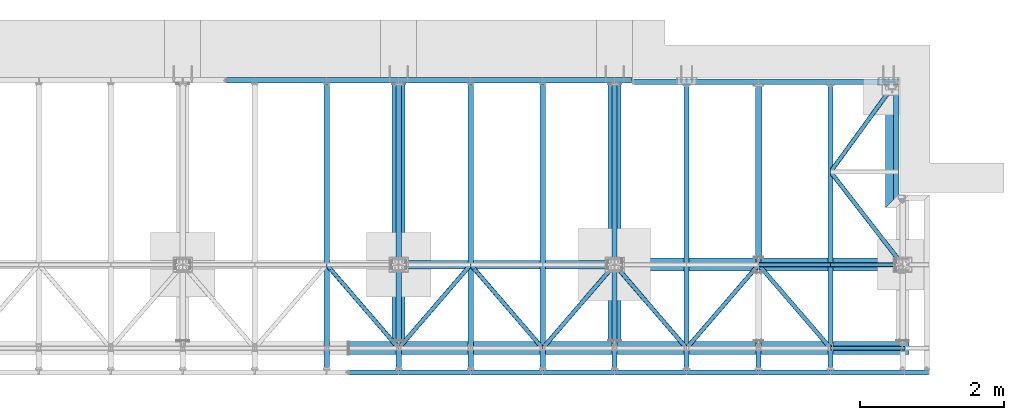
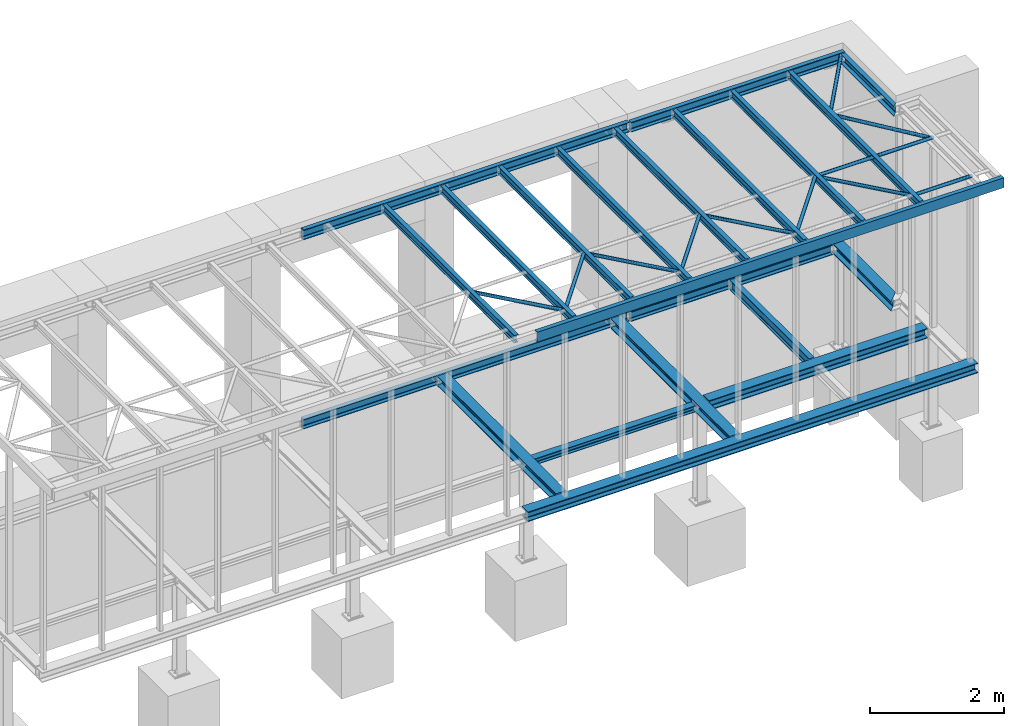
# One storey, part 4 of 23: 33 beams, 33 elements without a shape of their own.
"""IFC2X3 building model written with IfcOpenShell, lengths in millimetres."""

import ifcopenshell
import ifcopenshell.guid

model = None  # the IFC model being written
_history = None  # IfcOwnerHistory: only IFC2X3 demands one
_inside = {}  # id of a spatial element -> (the spatial element, [elements in it])
_under = {}  # id of a project, library or spatial element -> (it, [spatial elements below it])
_declared = {}  # id of a project -> (the project, [libraries it declares])
_typed = {}  # id of a type object -> (the type object, [elements of that type])
_made_of = {}  # id of a material, layer set ... -> (it, [elements and type objects made of it])


def new_model(schema):
    """Start an empty IFC model of exactly this schema.

    Asked for "IFC4X3", IfcOpenShell would pick the latest addendum, in which some entities
    have other attributes; the version numbers below select the first issue.
    IFC2X3 requires an IfcOwnerHistory on every rooted entity: one is made here for all.
    """
    global model, _history
    if schema == "IFC4X3":
        model = ifcopenshell.file(schema_version=(4, 3, 0, 0))
    else:
        model = ifcopenshell.file(schema=schema)
    _inside.clear()
    _under.clear()
    _declared.clear()
    _typed.clear()
    _made_of.clear()
    _history = None
    if model.schema == "IFC2X3":
        org = make("IfcOrganization", Name="unknown")
        user = make(
            "IfcPersonAndOrganization",
            ThePerson=make("IfcPerson", FamilyName="unknown"),
            TheOrganization=org,
        )
        app = make(
            "IfcApplication",
            ApplicationDeveloper=org,
            Version="unknown",
            ApplicationFullName="unknown",
            ApplicationIdentifier="unknown",
        )
        _history = make(
            "IfcOwnerHistory",
            OwningUser=user,
            OwningApplication=app,
            ChangeAction="ADDED",
            CreationDate=0,
        )
    return model


def make(cls, **values):
    """One entity of the class cls with the attributes given. An attribute that is None is left unset."""
    return model.create_entity(
        cls, **{name: value for name, value in values.items() if value is not None}
    )


def rooted(cls, **values):
    """An entity with a GlobalId (a new one), such as an element, a storey or a relation."""
    return make(cls, GlobalId=ifcopenshell.guid.new(), OwnerHistory=_history, **values)


def si_unit(unit_type, name, prefix=None):
    """IfcSIUnit, for example si_unit("LENGTHUNIT", "METRE", prefix="MILLI")."""
    return make("IfcSIUnit", UnitType=unit_type, Prefix=prefix, Name=name)


def assignment(units):
    """IfcUnitAssignment: the units of a project."""
    return None if units is None else make("IfcUnitAssignment", Units=units)


def point(xyz):
    """IfcCartesianPoint."""
    return None if xyz is None else make("IfcCartesianPoint", Coordinates=xyz)


def direction(xyz):
    """IfcDirection."""
    return None if xyz is None else make("IfcDirection", DirectionRatios=xyz)


def frame(location, z_axis=None, x_axis=None):
    """IfcAxis2Placement3D, a coordinate frame: its origin and axes. An axis left out is left unset."""
    return make(
        "IfcAxis2Placement3D",
        Location=point(location),
        Axis=direction(z_axis),
        RefDirection=direction(x_axis),
    )


def frame_2d(location, x_axis=None):
    """IfcAxis2Placement2D, a coordinate frame in the plane: its origin and x axis."""
    return make(
        "IfcAxis2Placement2D", Location=point(location), RefDirection=direction(x_axis)
    )


def origin_with_axes():
    """The frame at (0, 0, 0) with the z axis (0, 0, 1) and the x axis (1, 0, 0) written out."""
    return frame((0.0, 0.0, 0.0), z_axis=(0.0, 0.0, 1.0), x_axis=(1.0, 0.0, 0.0))


def origin_2d_with_axis():
    """The frame at (0, 0) in the plane with the x axis (1, 0) written out."""
    return frame_2d((0.0, 0.0), x_axis=(1.0, 0.0))


def place(relative_to, where):
    """IfcLocalPlacement: puts the frame where relative to a parent placement (None: the world)."""
    return make(
        "IfcLocalPlacement", PlacementRelTo=relative_to, RelativePlacement=where
    )


def context(
    kind, dimensions, precision=None, world=None, true_north=None, identifier=None
):
    """IfcGeometricRepresentationContext, for example the 3D "Model" context."""
    return make(
        "IfcGeometricRepresentationContext",
        ContextIdentifier=identifier,
        ContextType=kind,
        CoordinateSpaceDimension=dimensions,
        Precision=precision,
        WorldCoordinateSystem=world,
        TrueNorth=true_north,
    )


def subcontext(parent, identifier, kind, view, scale=None):
    """IfcGeometricRepresentationSubContext, for example "Body" below "Model"."""
    return make(
        "IfcGeometricRepresentationSubContext",
        ContextIdentifier=identifier,
        ContextType=kind,
        ParentContext=parent,
        TargetScale=scale,
        TargetView=view,
    )


def project(units=None, contexts=None):
    """IfcProject with its units and contexts."""
    return rooted(
        "IfcProject",
        Name="project",
        RepresentationContexts=contexts,
        UnitsInContext=assignment(units),
    )


def spatial(cls, under=None, at=None, **own):
    """A site, building, storey or space (cls), placed at a placement, below another one or the project."""
    s = rooted(cls, ObjectPlacement=at, **own)
    if under is not None:
        _under.setdefault(under.id(), (under, []))[1].append(s)
    return s


def profile(cls, at=None, kind="AREA", **sizes):
    """A parametric profile (cls). Its sizes go by their IFC names, for example OverallWidth=200.0."""
    return make(cls, ProfileType=kind, Position=at, **sizes)


def hollow_circle(**sizes):
    """IfcCircleHollowProfileDef."""
    return profile("IfcCircleHollowProfileDef", **sizes)


def i_section(**sizes):
    """IfcIShapeProfileDef."""
    return profile("IfcIShapeProfileDef", **sizes)


def u_section(**sizes):
    """IfcUShapeProfileDef."""
    return profile("IfcUShapeProfileDef", **sizes)


def extrude(swept, where, along, depth):
    """IfcExtrudedAreaSolid: the profile swept, set in the frame where, extruded along a direction by depth."""
    return make(
        "IfcExtrudedAreaSolid",
        SweptArea=swept,
        Position=where,
        ExtrudedDirection=direction(along),
        Depth=depth,
    )


def boolean(op, a, b):
    """IfcBooleanResult of two solids."""
    return make("IfcBooleanResult", Operator=op, FirstOperand=a, SecondOperand=b)


def clip(a, b, op="DIFFERENCE"):
    """IfcBooleanClippingResult: the solid a cut by the half space b."""
    return make(
        "IfcBooleanClippingResult", Operator=op, FirstOperand=a, SecondOperand=b
    )


def halfspace(plane, agree):
    """IfcHalfSpaceSolid: all space on one side of the plane z = 0 of the frame plane."""
    return make(
        "IfcHalfSpaceSolid",
        BaseSurface=make("IfcPlane", Position=plane),
        AgreementFlag=agree,
    )


def shape(context_of_items, identifier, shape_type, items):
    """IfcShapeRepresentation: the items that make up one representation, for example the "Body"."""
    return make(
        "IfcShapeRepresentation",
        ContextOfItems=context_of_items,
        RepresentationIdentifier=identifier,
        RepresentationType=shape_type,
        Items=items,
    )


def material(Name=None, Category=None):
    """IfcMaterial."""
    return make("IfcMaterial", Name=Name, Category=Category)


def made_of(thing, what):
    """Note that an element or type object is made of a material, layer set ...; save() writes the relation."""
    if what is not None:
        _made_of.setdefault(what.id(), (what, []))[1].append(thing)
    return thing


def type_object(cls, material=None, **own):
    """A type object (cls), such as IfcWallType, which elements share."""
    return made_of(rooted(cls, **own), material)


def element(
    cls,
    number,
    at=None,
    inside=None,
    cuts=None,
    type_object=None,
    material=None,
    context=None,
    identifier="Body",
    shape_type=None,
    held_by="IfcProductDefinitionShape",
    body=None,
    shapes=None,
    **own,
):
    """One element of the class cls, such as IfcWall. Its Tag is "e" and its number.

    at: its placement. inside: the storey or other place that contains it. cuts: it is an
    opening in that element (IfcRelVoidsElement). A single representation is given by context,
    identifier, shape_type and body (its items); several are given by shapes. held_by: the class
    of the entity that holds the representations. save() writes the other relations.
    """
    e = rooted(cls, Tag="e%d" % number, ObjectPlacement=at, **own)
    if body is not None:
        shapes = [shape(context, identifier, shape_type, body)]
    if shapes is not None:
        e.Representation = make(held_by, Representations=shapes)
    if inside is not None:
        _inside.setdefault(inside.id(), (inside, []))[1].append(e)
    if cuts is not None:
        rooted(
            "IfcRelVoidsElement", RelatingBuildingElement=cuts, RelatedOpeningElement=e
        )
    if type_object is not None:
        _typed.setdefault(type_object.id(), (type_object, []))[1].append(e)
    return made_of(e, material)


def aggregate(whole, parts):
    """IfcRelAggregates: a whole, such as a stair, and the parts it consists of."""
    return rooted("IfcRelAggregates", RelatingObject=whole, RelatedObjects=parts)


def save(model, path):
    """Write the relations noted so far, then the file.

    IfcRelAggregates (storeys below a building ...), IfcRelContainedInSpatialStructure (elements
    in a storey), IfcRelDefinesByType, IfcRelAssociatesMaterial and IfcRelDeclares: one each for
    every whole, place, type object, material and project.
    """
    for whole, parts in _under.values():
        aggregate(whole, parts)
    for where, things in _inside.values():
        rooted(
            "IfcRelContainedInSpatialStructure",
            RelatedElements=things,
            RelatingStructure=where,
        )
    for kind, things in _typed.values():
        rooted("IfcRelDefinesByType", RelatedObjects=things, RelatingType=kind)
    for what, things in _made_of.values():
        rooted("IfcRelAssociatesMaterial", RelatedObjects=things, RelatingMaterial=what)
    for by, libraries in _declared.values():
        rooted("IfcRelDeclares", RelatingContext=by, RelatedDefinitions=libraries)
    model.write(path)


model = new_model("IFC2X3")

# Units and contexts
model_context = context("Model", 3, precision=1e-05, world=origin_with_axes())
body_context = subcontext(model_context, "Body", "Model", "MODEL_VIEW")
ifc_project = project(units=[si_unit("LENGTHUNIT", "METRE", prefix="MILLI"), si_unit("AREAUNIT", "SQUARE_METRE"), si_unit("VOLUMEUNIT", "CUBIC_METRE"), si_unit("MASSUNIT", "GRAM", prefix="KILO"), si_unit("TIMEUNIT", "SECOND"), si_unit("PLANEANGLEUNIT", "RADIAN"), si_unit("SOLIDANGLEUNIT", "STERADIAN"), si_unit("THERMODYNAMICTEMPERATUREUNIT", "DEGREE_CELSIUS"), si_unit("LUMINOUSINTENSITYUNIT", "LUMEN")], contexts=[model_context])

# Site, building, storey
site_placement = place(None, origin_with_axes())
site = spatial("IfcSite", under=ifc_project, at=site_placement, Name="Undefined", CompositionType="ELEMENT")
building_placement = place(site_placement, origin_with_axes())
building = spatial("IfcBuilding", under=site, at=building_placement, Name="Undefined", CompositionType="ELEMENT")
storey_placement = place(building_placement, origin_with_axes())
storey = spatial("IfcBuildingStorey", under=building, at=storey_placement, Name="Undefined", CompositionType="ELEMENT", Elevation=0.0)

# Assembly, beam
assembly_1_placement = place(storey_placement, origin_with_axes())
assembly_1 = element("IfcElementAssembly", 1, at=assembly_1_placement, inside=storey, Name="Steel Assembly", AssemblyPlace="NOTDEFINED", PredefinedType="RIGID_FRAME")
ifc_material = material(Name="STEEL/S235JR")
beam_type_1 = type_object("IfcBeamType", Name="CHS60.3*5", PredefinedType="NOTDEFINED")
beam_1_placement = place(assembly_1_placement, frame((15050.0, 2550.0, 3230.0), z_axis=(0.0, 0.0, 1.0), x_axis=(0.612667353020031, -0.79034088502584, 0.0)))
beam_1 = element("IfcBeam", 2, at=beam_1_placement, type_object=beam_type_1, material=ifc_material, Name="NOSNÍK", ObjectType="CHS60.3*5", context=body_context, shape_type="CSG", body=[
    boolean("DIFFERENCE", boolean("DIFFERENCE", boolean("DIFFERENCE", extrude(hollow_circle(Radius=30.15, WallThickness=5.0, at=origin_2d_with_axis()), frame((1632.20709478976, -2.71817084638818e-13, 0.0), z_axis=(-1.0, 0.0, 0.0), x_axis=(0.0, -1.0, 0.0)), (0.0, 0.0, 1.0), 1632.2), extrude(hollow_circle(Radius=30.15, WallThickness=5.0, at=origin_2d_with_axis()), frame((581.421318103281, 750.033499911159, -1.50976120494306e-10), z_axis=(-0.612667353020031, -0.79034088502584, 0.0), x_axis=(-0.79034088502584, 0.612667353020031, 0.0)), (0.0, 0.0, 1.0), 949.0)), extrude(hollow_circle(Radius=30.15, WallThickness=5.0, at=origin_2d_with_axis()), frame((1653.34411846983, 27.2667601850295, -1.50976120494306e-10), z_axis=(-0.612667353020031, -0.79034088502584, 0.0), x_axis=(-0.79034088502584, 0.612667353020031, 0.0)), (0.0, 0.0, 1.0), 1034.5)), halfspace(frame((-35.0578133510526, 30.1500000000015, -30.1500000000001), z_axis=(-0.612667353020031, -0.79034088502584, 0.0), x_axis=(0.0, 0.0, 1.0)), False)),
])
aggregate(assembly_1, [beam_1])

assembly_2_placement = place(storey_placement, origin_with_axes())
assembly_2 = element("IfcElementAssembly", 3, at=assembly_2_placement, inside=storey, Name="Steel Assembly", AssemblyPlace="NOTDEFINED", PredefinedType="RIGID_FRAME")
beam_2_placement = place(assembly_2_placement, frame((15959.75, 3800.0, 3230.0), z_axis=(0.0, 0.0, -1.0), x_axis=(-0.588450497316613, -0.808533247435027, 0.0)))
beam_2 = element("IfcBeam", 4, at=beam_2_placement, type_object=beam_type_1, material=ifc_material, Name="NOSNÍK", ObjectType="CHS60.3*5", context=body_context, shape_type="CSG", body=[
    boolean("DIFFERENCE", boolean("DIFFERENCE", extrude(hollow_circle(Radius=30.15, WallThickness=5.0, at=origin_2d_with_axis()), frame((1546.00939922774, 0.0, 0.0), z_axis=(-1.0, 0.0, 0.0), x_axis=(0.0, -1.0, 0.0)), (0.0, 0.0, 1.0), 1546.0), extrude(hollow_circle(Radius=30.15, WallThickness=5.0, at=origin_2d_with_axis()), frame((987.569877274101, -767.298051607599, 9.09494701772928e-13), z_axis=(0.588450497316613, 0.808533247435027, 0.0), x_axis=(-0.808533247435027, 0.588450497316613, 0.0)), (0.0, 0.0, 1.0), 949.0)), halfspace(frame((1583.44207669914, -30.1499999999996, -30.1500000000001), z_axis=(0.588450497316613, 0.808533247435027, 0.0), x_axis=(0.0, 0.0, 1.0)), False)),
])
aggregate(assembly_2, [beam_2])

assembly_3_placement = place(storey_placement, origin_with_axes())
assembly_3 = element("IfcElementAssembly", 5, at=assembly_3_placement, inside=storey, Name="Steel Assembly", AssemblyPlace="NOTDEFINED", PredefinedType="RIGID_FRAME")
beam_3_placement = place(assembly_3_placement, frame((14049.999999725, 1260.00000021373, 3230.0), z_axis=(0.0, 0.0, -1.0), x_axis=(0.652939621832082, -0.757409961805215, 0.0)))
beam_3 = element("IfcBeam", 6, at=beam_3_placement, type_object=beam_type_1, material=ifc_material, Name="NOSNÍK", ObjectType="CHS60.3*5", context=body_context, shape_type="CSG", body=[
    boolean("DIFFERENCE", boolean("DIFFERENCE", boolean("DIFFERENCE", boolean("DIFFERENCE", extrude(hollow_circle(Radius=30.15, WallThickness=5.0, at=origin_2d_with_axis()), frame((1531.53517752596, -1.81898940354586e-12, 0.0), z_axis=(-1.0, 0.0, 0.0), x_axis=(0.0, -1.0, 0.0)), (0.0, 0.0, 1.0), 1531.5), extrude(hollow_circle(Radius=30.15, WallThickness=5.0, at=origin_2d_with_axis()), frame((652.939622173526, -757.409961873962, 9.09494701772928e-13), z_axis=(-0.652939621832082, 0.757409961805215, 0.0), x_axis=(-0.757409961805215, -0.652939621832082, 0.0)), (0.0, 0.0, 1.0), 997.6)), extrude(hollow_circle(Radius=30.15, WallThickness=5.0, at=origin_2d_with_axis()), frame((1530.00076975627, 1.77991286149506, 9.09494701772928e-13), z_axis=(-0.652939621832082, 0.757409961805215, 0.0), x_axis=(-0.757409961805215, -0.652939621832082, 0.0)), (0.0, 0.0, 1.0), 995.3)), halfspace(frame((38.5731081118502, 30.1499999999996, -30.1499999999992), z_axis=(-0.652939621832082, 0.757409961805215, 0.0), x_axis=(0.0, 0.0, 1.0)), False)), halfspace(frame((1562.91007051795, 30.1499999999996, 30.150000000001), z_axis=(0.652939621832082, -0.757409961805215, 0.0), x_axis=(0.0, 0.0, -1.0)), False)),
])
aggregate(assembly_3, [beam_3])

assembly_4_placement = place(storey_placement, origin_with_axes())
assembly_4 = element("IfcElementAssembly", 7, at=assembly_4_placement, inside=storey, Name="Steel Assembly", AssemblyPlace="NOTDEFINED", PredefinedType="RIGID_FRAME")
beam_4_placement = place(assembly_4_placement, frame((13050.0, 100.0, 3230.0), z_axis=(0.0, 0.0, -1.0), x_axis=(0.652939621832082, 0.757409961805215, 0.0)))
beam_4 = element("IfcBeam", 8, at=beam_4_placement, type_object=beam_type_1, material=ifc_material, Name="NOSNÍK", ObjectType="CHS60.3*5", context=body_context, shape_type="CSG", body=[
    boolean("DIFFERENCE", boolean("DIFFERENCE", boolean("DIFFERENCE", boolean("DIFFERENCE", extrude(hollow_circle(Radius=30.15, WallThickness=5.0, at=origin_2d_with_axis()), frame((1531.53517752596, -1.81898940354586e-12, 0.0), z_axis=(-1.0, 0.0, 0.0), x_axis=(0.0, -1.0, 0.0)), (0.0, 0.0, 1.0), 1531.5), extrude(hollow_circle(Radius=30.15, WallThickness=5.0, at=origin_2d_with_axis()), frame((1530.00076941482, -1.77991293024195, 0.0), z_axis=(-0.652939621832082, -0.757409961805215, 0.0), x_axis=(0.757409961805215, -0.652939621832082, 0.0)), (0.0, 0.0, 1.0), 997.6)), extrude(hollow_circle(Radius=30.15, WallThickness=5.0, at=origin_2d_with_axis()), frame((651.405213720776, 755.630048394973, 0.0), z_axis=(-0.652939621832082, -0.757409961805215, 0.0), x_axis=(0.757409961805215, -0.652939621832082, 0.0)), (0.0, 0.0, 1.0), 995.3)), halfspace(frame((1562.9100704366, -30.1499999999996, -30.1500000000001), z_axis=(0.652939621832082, 0.757409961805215, 0.0), x_axis=(0.0, 0.0, 1.0)), False)), halfspace(frame((-31.3748924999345, 30.1499999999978, -30.1500000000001), z_axis=(-0.652939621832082, -0.757409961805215, 0.0), x_axis=(0.0, 0.0, 1.0)), False)),
])
aggregate(assembly_4, [beam_4])

assembly_5_placement = place(storey_placement, origin_with_axes())
assembly_5 = element("IfcElementAssembly", 9, at=assembly_5_placement, inside=storey, Name="Steel Assembly", AssemblyPlace="NOTDEFINED", PredefinedType="RIGID_FRAME")
beam_5_placement = place(assembly_5_placement, frame((12049.999999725, 1260.00000021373, 3230.0), z_axis=(0.0, 0.0, -1.0), x_axis=(0.652939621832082, -0.757409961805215, 0.0)))
beam_5 = element("IfcBeam", 10, at=beam_5_placement, type_object=beam_type_1, material=ifc_material, Name="NOSNÍK", ObjectType="CHS60.3*5", context=body_context, shape_type="CSG", body=[
    boolean("DIFFERENCE", boolean("DIFFERENCE", boolean("DIFFERENCE", boolean("DIFFERENCE", extrude(hollow_circle(Radius=30.15, WallThickness=5.0, at=origin_2d_with_axis()), frame((1531.53517752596, -1.81898940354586e-12, 0.0), z_axis=(-1.0, 0.0, 0.0), x_axis=(0.0, -1.0, 0.0)), (0.0, 0.0, 1.0), 1531.5), extrude(hollow_circle(Radius=30.15, WallThickness=5.0, at=origin_2d_with_axis()), frame((651.405214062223, -755.630048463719, 0.0), z_axis=(-0.652939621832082, 0.757409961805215, 0.0), x_axis=(-0.757409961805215, -0.652939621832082, 0.0)), (0.0, 0.0, 1.0), 995.3)), extrude(hollow_circle(Radius=30.15, WallThickness=5.0, at=origin_2d_with_axis()), frame((1530.00076975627, 1.77991286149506, 9.09494701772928e-13), z_axis=(-0.652939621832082, 0.757409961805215, 0.0), x_axis=(-0.757409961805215, -0.652939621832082, 0.0)), (0.0, 0.0, 1.0), 995.3)), halfspace(frame((38.5731081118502, 30.1499999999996, -30.1499999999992), z_axis=(-0.652939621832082, 0.757409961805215, 0.0), x_axis=(0.0, 0.0, 1.0)), False)), halfspace(frame((1562.91007051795, 30.1499999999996, 30.150000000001), z_axis=(0.652939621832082, -0.757409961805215, 0.0), x_axis=(0.0, 0.0, -1.0)), False)),
])
aggregate(assembly_5, [beam_5])

assembly_6_placement = place(storey_placement, origin_with_axes())
assembly_6 = element("IfcElementAssembly", 11, at=assembly_6_placement, inside=storey, Name="Steel Assembly", AssemblyPlace="NOTDEFINED", PredefinedType="RIGID_FRAME")
beam_6_placement = place(assembly_6_placement, frame((11050.0, 100.0, 3230.0), z_axis=(0.0, 0.0, -1.0), x_axis=(0.652939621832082, 0.757409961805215, 0.0)))
beam_6 = element("IfcBeam", 12, at=beam_6_placement, type_object=beam_type_1, material=ifc_material, Name="NOSNÍK", ObjectType="CHS60.3*5", context=body_context, shape_type="CSG", body=[
    boolean("DIFFERENCE", boolean("DIFFERENCE", boolean("DIFFERENCE", boolean("DIFFERENCE", extrude(hollow_circle(Radius=30.15, WallThickness=5.0, at=origin_2d_with_axis()), frame((1531.53517752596, -1.81898940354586e-12, 0.0), z_axis=(-1.0, 0.0, 0.0), x_axis=(0.0, -1.0, 0.0)), (0.0, 0.0, 1.0), 1531.5), extrude(hollow_circle(Radius=30.15, WallThickness=5.0, at=origin_2d_with_axis()), frame((1530.00076941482, -1.77991293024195, 0.0), z_axis=(-0.652939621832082, -0.757409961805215, 0.0), x_axis=(0.757409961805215, -0.652939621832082, 0.0)), (0.0, 0.0, 1.0), 995.3)), extrude(hollow_circle(Radius=30.15, WallThickness=5.0, at=origin_2d_with_axis()), frame((651.405213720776, 755.630048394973, 0.0), z_axis=(-0.652939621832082, -0.757409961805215, 0.0), x_axis=(0.757409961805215, -0.652939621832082, 0.0)), (0.0, 0.0, 1.0), 995.3)), halfspace(frame((1562.9100704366, -30.1499999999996, -30.1500000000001), z_axis=(0.652939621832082, 0.757409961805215, 0.0), x_axis=(0.0, 0.0, 1.0)), False)), halfspace(frame((-31.3748924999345, 30.1499999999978, -30.1500000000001), z_axis=(-0.652939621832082, -0.757409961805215, 0.0), x_axis=(0.0, 0.0, 1.0)), False)),
])
aggregate(assembly_6, [beam_6])

assembly_7_placement = place(storey_placement, origin_with_axes())
assembly_7 = element("IfcElementAssembly", 13, at=assembly_7_placement, inside=storey, Name="Steel Assembly", AssemblyPlace="NOTDEFINED", PredefinedType="RIGID_FRAME")
beam_7_placement = place(assembly_7_placement, frame((10049.999999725, 1260.00000021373, 3230.0), z_axis=(0.0, 0.0, -1.0), x_axis=(0.652939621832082, -0.757409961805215, 0.0)))
beam_7 = element("IfcBeam", 14, at=beam_7_placement, type_object=beam_type_1, material=ifc_material, Name="NOSNÍK", ObjectType="CHS60.3*5", context=body_context, shape_type="CSG", body=[
    boolean("DIFFERENCE", boolean("DIFFERENCE", boolean("DIFFERENCE", boolean("DIFFERENCE", extrude(hollow_circle(Radius=30.15, WallThickness=5.0, at=origin_2d_with_axis()), frame((1531.53517752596, -1.81898940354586e-12, 0.0), z_axis=(-1.0, 0.0, 0.0), x_axis=(0.0, -1.0, 0.0)), (0.0, 0.0, 1.0), 1531.5), extrude(hollow_circle(Radius=30.15, WallThickness=5.0, at=origin_2d_with_axis()), frame((651.405214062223, -755.630048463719, 0.0), z_axis=(-0.652939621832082, 0.757409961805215, 0.0), x_axis=(-0.757409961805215, -0.652939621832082, 0.0)), (0.0, 0.0, 1.0), 995.3)), extrude(hollow_circle(Radius=30.15, WallThickness=5.0, at=origin_2d_with_axis()), frame((1530.00076975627, 1.77991286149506, 9.09494701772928e-13), z_axis=(-0.652939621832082, 0.757409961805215, 0.0), x_axis=(-0.757409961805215, -0.652939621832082, 0.0)), (0.0, 0.0, 1.0), 995.3)), halfspace(frame((38.5731081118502, 30.1499999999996, -30.1499999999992), z_axis=(-0.652939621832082, 0.757409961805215, 0.0), x_axis=(0.0, 0.0, 1.0)), False)), halfspace(frame((1562.91007051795, 30.1499999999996, 30.150000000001), z_axis=(0.652939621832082, -0.757409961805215, 0.0), x_axis=(0.0, 0.0, -1.0)), False)),
])
aggregate(assembly_7, [beam_7])

assembly_8_placement = place(storey_placement, origin_with_axes())
assembly_8 = element("IfcElementAssembly", 15, at=assembly_8_placement, inside=storey, Name="Steel Assembly", AssemblyPlace="NOTDEFINED", PredefinedType="RIGID_FRAME")
beam_8_placement = place(assembly_8_placement, frame((9050.0, 100.0, 3230.0), z_axis=(0.0, 0.0, -1.0), x_axis=(0.652939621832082, 0.757409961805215, 0.0)))
beam_8 = element("IfcBeam", 16, at=beam_8_placement, type_object=beam_type_1, material=ifc_material, Name="NOSNÍK", ObjectType="CHS60.3*5", context=body_context, shape_type="CSG", body=[
    boolean("DIFFERENCE", boolean("DIFFERENCE", boolean("DIFFERENCE", boolean("DIFFERENCE", extrude(hollow_circle(Radius=30.15, WallThickness=5.0, at=origin_2d_with_axis()), frame((1531.53517752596, -1.81898940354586e-12, 0.0), z_axis=(-1.0, 0.0, 0.0), x_axis=(0.0, -1.0, 0.0)), (0.0, 0.0, 1.0), 1531.5), extrude(hollow_circle(Radius=30.15, WallThickness=5.0, at=origin_2d_with_axis()), frame((1530.00076941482, -1.77991293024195, 0.0), z_axis=(-0.652939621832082, -0.757409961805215, 0.0), x_axis=(0.757409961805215, -0.652939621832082, 0.0)), (0.0, 0.0, 1.0), 995.3)), extrude(hollow_circle(Radius=30.15, WallThickness=5.0, at=origin_2d_with_axis()), frame((651.405213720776, 755.630048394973, 0.0), z_axis=(-0.652939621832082, -0.757409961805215, 0.0), x_axis=(0.757409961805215, -0.652939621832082, 0.0)), (0.0, 0.0, 1.0), 995.3)), halfspace(frame((1562.9100704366, -30.1499999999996, -30.1500000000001), z_axis=(0.652939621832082, 0.757409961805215, 0.0), x_axis=(0.0, 0.0, 1.0)), False)), halfspace(frame((-31.3748924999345, 30.1499999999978, -30.1500000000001), z_axis=(-0.652939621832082, -0.757409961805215, 0.0), x_axis=(0.0, 0.0, 1.0)), False)),
])
aggregate(assembly_8, [beam_8])

assembly_9_placement = place(storey_placement, origin_with_axes())
assembly_9 = element("IfcElementAssembly", 17, at=assembly_9_placement, inside=storey, Name="Steel Assembly", AssemblyPlace="NOTDEFINED", PredefinedType="RIGID_FRAME")
beam_9_placement = place(assembly_9_placement, frame((8049.99999972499, 1260.00000021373, 3230.0), z_axis=(0.0, 0.0, -1.0), x_axis=(0.652939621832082, -0.757409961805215, 0.0)))
beam_9 = element("IfcBeam", 18, at=beam_9_placement, type_object=beam_type_1, material=ifc_material, Name="NOSNÍK", ObjectType="CHS60.3*5", context=body_context, shape_type="CSG", body=[
    boolean("DIFFERENCE", boolean("DIFFERENCE", boolean("DIFFERENCE", boolean("DIFFERENCE", extrude(hollow_circle(Radius=30.15, WallThickness=5.0, at=origin_2d_with_axis()), frame((1531.53517752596, -1.81898940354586e-12, 0.0), z_axis=(-1.0, 0.0, 0.0), x_axis=(0.0, -1.0, 0.0)), (0.0, 0.0, 1.0), 1531.5), extrude(hollow_circle(Radius=30.15, WallThickness=5.0, at=origin_2d_with_axis()), frame((651.405214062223, -755.630048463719, 0.0), z_axis=(-0.652939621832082, 0.757409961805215, 0.0), x_axis=(-0.757409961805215, -0.652939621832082, 0.0)), (0.0, 0.0, 1.0), 995.3)), extrude(hollow_circle(Radius=30.15, WallThickness=5.0, at=origin_2d_with_axis()), frame((1530.00076975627, 1.77991286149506, 9.09494701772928e-13), z_axis=(-0.652939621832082, 0.757409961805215, 0.0), x_axis=(-0.757409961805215, -0.652939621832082, 0.0)), (0.0, 0.0, 1.0), 995.3)), halfspace(frame((38.5731081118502, 30.1499999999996, -30.1499999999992), z_axis=(-0.652939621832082, 0.757409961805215, 0.0), x_axis=(0.0, 0.0, 1.0)), False)), halfspace(frame((1562.91007051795, 30.1499999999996, 30.150000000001), z_axis=(0.652939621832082, -0.757409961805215, 0.0), x_axis=(0.0, 0.0, -1.0)), False)),
])
aggregate(assembly_9, [beam_9])

assembly_10_placement = place(storey_placement, origin_with_axes())
assembly_10 = element("IfcElementAssembly", 19, at=assembly_10_placement, inside=storey, Name="Steel Assembly", AssemblyPlace="NOTDEFINED", PredefinedType="RIGID_FRAME")
beam_10_placement = place(assembly_10_placement, frame((15052.35, 100.0, 3230.0), z_axis=(0.0, 0.0, -1.0), x_axis=(1.0, 0.0, 0.0)))
beam_10 = element("IfcBeam", 20, at=beam_10_placement, type_object=beam_type_1, material=ifc_material, Name="NOSNÍK", ObjectType="CHS60.3*5", context=body_context, shape_type="SweptSolid", body=[
    extrude(hollow_circle(Radius=30.15, WallThickness=5.0, at=origin_2d_with_axis()), frame((1032.15, 0.0, 0.0), z_axis=(-1.0, 0.0, 0.0), x_axis=(0.0, -1.0, 0.0)), (0.0, 0.0, 1.0), 1032.1),
])
aggregate(assembly_10, [beam_10])

assembly_11_placement = place(storey_placement, origin_with_axes())
assembly_11 = element("IfcElementAssembly", 21, at=assembly_11_placement, inside=storey, Name="Steel Assembly", AssemblyPlace="NOTDEFINED", PredefinedType="RIGID_FRAME")
beam_11_placement = place(assembly_11_placement, frame((15050.0, 1260.0, 3230.0), z_axis=(0.0, 0.0, -1.0), x_axis=(1.0, 0.0, 0.0)))
beam_11 = element("IfcBeam", 22, at=beam_11_placement, type_object=beam_type_1, material=ifc_material, Name="NOSNÍK", ObjectType="CHS60.3*5", context=body_context, shape_type="SweptSolid", body=[
    extrude(hollow_circle(Radius=30.15, WallThickness=5.0, at=origin_2d_with_axis()), frame((1034.5, 0.0, 0.0), z_axis=(-1.0, 0.0, 0.0), x_axis=(0.0, -1.0, 0.0)), (0.0, 0.0, 1.0), 1034.5),
])
aggregate(assembly_11, [beam_11])

assembly_12_placement = place(storey_placement, origin_with_axes())
assembly_12 = element("IfcElementAssembly", 23, at=assembly_12_placement, inside=storey, Name="Steel Assembly", AssemblyPlace="NOTDEFINED", PredefinedType="RIGID_FRAME")
beam_12_placement = place(assembly_12_placement, frame((14052.35, 1260.0, 3230.0), z_axis=(0.0, 0.0, -1.0), x_axis=(1.0, 0.0, 0.0)))
beam_12 = element("IfcBeam", 24, at=beam_12_placement, type_object=beam_type_1, material=ifc_material, Name="NOSNÍK", ObjectType="CHS60.3*5", context=body_context, shape_type="SweptSolid", body=[
    extrude(hollow_circle(Radius=30.15, WallThickness=5.0, at=origin_2d_with_axis()), frame((997.65, 0.0, 0.0), z_axis=(-1.0, 0.0, 0.0), x_axis=(0.0, -1.0, 0.0)), (0.0, 0.0, 1.0), 997.6),
])
aggregate(assembly_12, [beam_12])

assembly_13_placement = place(storey_placement, origin_with_axes())
assembly_13 = element("IfcElementAssembly", 25, at=assembly_13_placement, inside=storey, Name="Steel Assembly", AssemblyPlace="NOTDEFINED", PredefinedType="RIGID_FRAME")
beam_type_2 = type_object("IfcBeamType", Name="UPE180", PredefinedType="NOTDEFINED")
beam_13_placement = place(assembly_13_placement, frame((12295.0, 3822.5, -250.0), z_axis=(0.0, 0.0, -1.0), x_axis=(-1.0, 0.0, 0.0)))
beam_13 = element("IfcBeam", 26, at=beam_13_placement, type_object=beam_type_2, material=ifc_material, Name="NOSNÍK", ObjectType="UPE180", context=body_context, shape_type="SweptSolid", body=[
    extrude(u_section(Depth=180.0, FlangeWidth=75.0, WebThickness=5.5, FlangeThickness=10.5, FilletRadius=12.0, at=origin_2d_with_axis()), frame((5635.0, 0.0, 0.0), z_axis=(-1.0, 0.0, 0.0), x_axis=(0.0, -1.0, 0.0)), (0.0, 0.0, 1.0), 5635.0),
])
aggregate(assembly_13, [beam_13])

assembly_14_placement = place(storey_placement, origin_with_axes())
assembly_14 = element("IfcElementAssembly", 27, at=assembly_14_placement, inside=storey, Name="Steel Assembly", AssemblyPlace="NOTDEFINED", PredefinedType="RIGID_FRAME")
beam_14_placement = place(assembly_14_placement, frame((16425.0, -237.5, 3210.0), z_axis=(0.0, 0.0, 1.0), x_axis=(-1.0, 0.0, 0.0)))
beam_14 = element("IfcBeam", 28, at=beam_14_placement, type_object=beam_type_2, material=ifc_material, Name="NOSNÍK", ObjectType="UPE180", context=body_context, shape_type="SweptSolid", body=[
    extrude(u_section(Depth=180.0, FlangeWidth=75.0, WebThickness=5.5, FlangeThickness=10.5, FilletRadius=12.0, at=origin_2d_with_axis()), frame((8065.0, 0.0, 0.0), z_axis=(-1.0, 0.0, 0.0), x_axis=(0.0, -1.0, 0.0)), (0.0, 0.0, 1.0), 8065.0),
])
aggregate(assembly_14, [beam_14])

assembly_15_placement = place(storey_placement, origin_with_axes())
assembly_15 = element("IfcElementAssembly", 29, at=assembly_15_placement, inside=storey, Name="Steel Assembly", AssemblyPlace="NOTDEFINED", PredefinedType="RIGID_FRAME")
beam_15_placement = place(assembly_15_placement, frame((15962.5, 3745.0, 3210.0), z_axis=(0.0, 0.0, 1.0), x_axis=(0.0, -1.0, 0.0)))
beam_15 = element("IfcBeam", 30, at=beam_15_placement, type_object=beam_type_2, material=ifc_material, Name="NOSNÍK", ObjectType="UPE180", context=body_context, shape_type="Clipping", body=[
    clip(extrude(u_section(Depth=180.0, FlangeWidth=75.0, WebThickness=5.5, FlangeThickness=10.5, FilletRadius=12.0, at=origin_2d_with_axis()), frame((1590.0, 0.0, 0.0), z_axis=(-1.0, 0.0, 0.0), x_axis=(0.0, -1.0, 0.0)), (0.0, 0.0, 1.0), 1590.0), halfspace(frame((1515.0, 37.5, 90.0), z_axis=(0.707106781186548, 0.707106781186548, 0.0), x_axis=(0.0, 0.0, -1.0)), False)),
])
aggregate(assembly_15, [beam_15])

assembly_16_placement = place(storey_placement, origin_with_axes())
assembly_16 = element("IfcElementAssembly", 31, at=assembly_16_placement, inside=storey, Name="Steel Assembly", AssemblyPlace="NOTDEFINED", PredefinedType="RIGID_FRAME")
beam_16_placement = place(assembly_16_placement, frame((16005.0, 3802.5, 3210.0), z_axis=(0.0, 0.0, -1.0), x_axis=(-1.0, 0.0, 0.0)))
beam_16 = element("IfcBeam", 32, at=beam_16_placement, type_object=beam_type_2, material=ifc_material, Name="NOSNÍK", ObjectType="UPE180", context=body_context, shape_type="SweptSolid", body=[
    extrude(u_section(Depth=180.0, FlangeWidth=75.0, WebThickness=5.5, FlangeThickness=10.5, FilletRadius=12.0, at=origin_2d_with_axis()), frame((3690.0, 0.0, 0.0), z_axis=(-1.0, 0.0, 0.0), x_axis=(0.0, -1.0, 0.0)), (0.0, 0.0, 1.0), 3690.0),
])
aggregate(assembly_16, [beam_16])

assembly_17_placement = place(storey_placement, origin_with_axes())
assembly_17 = element("IfcElementAssembly", 33, at=assembly_17_placement, inside=storey, Name="Steel Assembly", AssemblyPlace="NOTDEFINED", PredefinedType="RIGID_FRAME")
beam_17_placement = place(assembly_17_placement, frame((12295.0, 3822.5, 3210.0), z_axis=(0.0, 0.0, -1.0), x_axis=(-1.0, 0.0, 0.0)))
beam_17 = element("IfcBeam", 34, at=beam_17_placement, type_object=beam_type_2, material=ifc_material, Name="NOSNÍK", ObjectType="UPE180", context=body_context, shape_type="SweptSolid", body=[
    extrude(u_section(Depth=180.0, FlangeWidth=75.0, WebThickness=5.5, FlangeThickness=10.5, FilletRadius=12.0, at=origin_2d_with_axis()), frame((5635.0, 0.0, 0.0), z_axis=(-1.0, 0.0, 0.0), x_axis=(0.0, -1.0, 0.0)), (0.0, 0.0, 1.0), 5635.0),
])
aggregate(assembly_17, [beam_17])

assembly_18_placement = place(storey_placement, origin_with_axes())
assembly_18 = element("IfcElementAssembly", 35, at=assembly_18_placement, inside=storey, Name="Steel Assembly", AssemblyPlace="NOTDEFINED", PredefinedType="RIGID_FRAME")
beam_18_placement = place(assembly_18_placement, frame((15797.0, 3802.5, -250.0), z_axis=(0.0, 0.0, -1.0), x_axis=(-1.0, 0.0, 0.0)))
beam_18 = element("IfcBeam", 36, at=beam_18_placement, type_object=beam_type_2, material=ifc_material, Name="NOSNÍK", ObjectType="UPE180", context=body_context, shape_type="SweptSolid", body=[
    extrude(u_section(Depth=180.0, FlangeWidth=75.0, WebThickness=5.5, FlangeThickness=10.5, FilletRadius=12.0, at=origin_2d_with_axis()), frame((3482.0, 0.0, 0.0), z_axis=(-1.0, 0.0, 0.0), x_axis=(0.0, -1.0, 0.0)), (0.0, 0.0, 1.0), 3482.0),
])
aggregate(assembly_18, [beam_18])

assembly_19_placement = place(storey_placement, origin_with_axes())
assembly_19 = element("IfcElementAssembly", 37, at=assembly_19_placement, inside=storey, Name="Steel Assembly", AssemblyPlace="NOTDEFINED", PredefinedType="RIGID_FRAME")
beam_type_3 = type_object("IfcBeamType", Name="IPE180", PredefinedType="NOTDEFINED")
beam_19_placement = place(assembly_19_placement, frame((14050.0, 1370.0, -250.0), z_axis=(0.0, 0.0, 1.0), x_axis=(0.0, 1.0, 0.0)))
beam_19 = element("IfcBeam", 38, at=beam_19_placement, type_object=beam_type_3, material=ifc_material, Name="NOSNÍK", ObjectType="IPE180", context=body_context, shape_type="SweptSolid", body=[
    extrude(i_section(OverallWidth=91.0, OverallDepth=180.0, WebThickness=5.300000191, FlangeThickness=8.0, FilletRadius=9.0, at=origin_2d_with_axis()), frame((2375.0, 0.0, 0.0), z_axis=(-1.0, 0.0, 0.0), x_axis=(0.0, -1.0, 0.0)), (0.0, 0.0, 1.0), 2375.0),
])
aggregate(assembly_19, [beam_19])

assembly_20_placement = place(storey_placement, origin_with_axes())
assembly_20 = element("IfcElementAssembly", 39, at=assembly_20_placement, inside=storey, Name="Steel Assembly", AssemblyPlace="NOTDEFINED", PredefinedType="RIGID_FRAME")
beam_type_4 = type_object("IfcBeamType", Name="HEB180", PredefinedType="NOTDEFINED")
beam_20_placement = place(assembly_20_placement, frame((8360.0, 100.0, -250.0), z_axis=(0.0, 0.0, -1.0), x_axis=(1.0, 0.0, 0.0)))
beam_20 = element("IfcBeam", 40, at=beam_20_placement, type_object=beam_type_4, material=ifc_material, Name="NOSNÍK", ObjectType="HEB180", context=body_context, shape_type="SweptSolid", body=[
    extrude(i_section(OverallWidth=180.0, OverallDepth=180.0, WebThickness=8.5, FlangeThickness=14.0, FilletRadius=15.0, at=origin_2d_with_axis()), frame((7780.0, 0.0, 0.0), z_axis=(-1.0, 0.0, 0.0), x_axis=(0.0, -1.0, 0.0)), (0.0, 0.0, 1.0), 7780.0),
])
aggregate(assembly_20, [beam_20])

assembly_21_placement = place(storey_placement, origin_with_axes())
assembly_21 = element("IfcElementAssembly", 41, at=assembly_21_placement, inside=storey, Name="Steel Assembly", AssemblyPlace="NOTDEFINED", PredefinedType="RIGID_FRAME")
beam_21_placement = place(assembly_21_placement, frame((12160.0, 1260.0, -250.0), z_axis=(0.0, 0.0, -1.0), x_axis=(1.0, 0.0, 0.0)))
beam_21 = element("IfcBeam", 42, at=beam_21_placement, type_object=beam_type_4, material=ifc_material, Name="NOSNÍK", ObjectType="HEB180", context=body_context, shape_type="SweptSolid", body=[
    extrude(i_section(OverallWidth=180.0, OverallDepth=180.0, WebThickness=8.5, FlangeThickness=14.0, FilletRadius=15.0, at=origin_2d_with_axis()), frame((3780.0, 0.0, 0.0), z_axis=(-1.0, 0.0, 0.0), x_axis=(0.0, -1.0, 0.0)), (0.0, 0.0, 1.0), 3780.0),
])
aggregate(assembly_21, [beam_21])

assembly_22_placement = place(storey_placement, origin_with_axes())
assembly_22 = element("IfcElementAssembly", 43, at=assembly_22_placement, inside=storey, Name="Steel Assembly", AssemblyPlace="NOTDEFINED", PredefinedType="RIGID_FRAME")
beam_22_placement = place(assembly_22_placement, frame((15905.0, 3840.0, -250.0), z_axis=(0.0, 0.0, 1.0), x_axis=(0.0, -1.0, 0.0)))
beam_22 = element("IfcBeam", 44, at=beam_22_placement, type_object=beam_type_4, material=ifc_material, Name="NOSNÍK", ObjectType="HEB180", context=body_context, shape_type="Clipping", body=[
    clip(extrude(i_section(OverallWidth=180.0, OverallDepth=180.0, WebThickness=8.5, FlangeThickness=14.0, FilletRadius=15.0, at=origin_2d_with_axis()), frame((1800.0, 0.0, 0.0), z_axis=(-1.0, 0.0, 0.0), x_axis=(0.0, -1.0, 0.0)), (0.0, 0.0, 1.0), 1800.0), halfspace(frame((1600.0, 100.0, 90.0), z_axis=(0.707106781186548, 0.707106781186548, 0.0), x_axis=(0.0, 0.0, -1.0)), False)),
])
aggregate(assembly_22, [beam_22])

assembly_23_placement = place(storey_placement, origin_with_axes())
assembly_23 = element("IfcElementAssembly", 45, at=assembly_23_placement, inside=storey, Name="Steel Assembly", AssemblyPlace="NOTDEFINED", PredefinedType="RIGID_FRAME")
beam_23_placement = place(assembly_23_placement, frame((12050.0, 3767.0, -250.0), z_axis=(0.0, 0.0, 1.0), x_axis=(0.0, -1.0, 0.0)))
beam_23 = element("IfcBeam", 46, at=beam_23_placement, type_object=beam_type_4, material=ifc_material, Name="NOSNÍK", ObjectType="HEB180", context=body_context, shape_type="SweptSolid", body=[
    extrude(i_section(OverallWidth=180.0, OverallDepth=180.0, WebThickness=8.5, FlangeThickness=14.0, FilletRadius=15.0, at=origin_2d_with_axis()), frame((3557.0, 0.0, 0.0), z_axis=(-1.0, 0.0, 0.0), x_axis=(0.0, -1.0, 0.0)), (0.0, 0.0, 1.0), 3557.0),
])
aggregate(assembly_23, [beam_23])

assembly_24_placement = place(storey_placement, origin_with_axes())
assembly_24 = element("IfcElementAssembly", 47, at=assembly_24_placement, inside=storey, Name="Steel Assembly", AssemblyPlace="NOTDEFINED", PredefinedType="RIGID_FRAME")
beam_24_placement = place(assembly_24_placement, frame((9050.0, 3767.0, -250.0), z_axis=(0.0, 0.0, 1.0), x_axis=(0.0, -1.0, 0.0)))
beam_24 = element("IfcBeam", 48, at=beam_24_placement, type_object=beam_type_4, material=ifc_material, Name="NOSNÍK", ObjectType="HEB180", context=body_context, shape_type="SweptSolid", body=[
    extrude(i_section(OverallWidth=180.0, OverallDepth=180.0, WebThickness=8.5, FlangeThickness=14.0, FilletRadius=15.0, at=origin_2d_with_axis()), frame((3557.0, 0.0, 0.0), z_axis=(-1.0, 0.0, 0.0), x_axis=(0.0, -1.0, 0.0)), (0.0, 0.0, 1.0), 3557.0),
])
aggregate(assembly_24, [beam_24])

assembly_25_placement = place(storey_placement, origin_with_axes())
assembly_25 = element("IfcElementAssembly", 49, at=assembly_25_placement, inside=storey, Name="Steel Assembly", AssemblyPlace="NOTDEFINED", PredefinedType="RIGID_FRAME")
beam_type_5 = type_object("IfcBeamType", Name="HEA120", PredefinedType="NOTDEFINED")
beam_25_placement = place(assembly_25_placement, frame((9160.0, 1260.0, -250.0), z_axis=(0.0, 0.0, -1.0), x_axis=(1.0, 0.0, 0.0)))
beam_25 = element("IfcBeam", 50, at=beam_25_placement, type_object=beam_type_5, material=ifc_material, Name="NOSNÍK", ObjectType="HEA120", context=body_context, shape_type="SweptSolid", body=[
    extrude(i_section(OverallWidth=120.0, OverallDepth=114.0, WebThickness=5.0, FlangeThickness=8.0, FilletRadius=12.0, at=origin_2d_with_axis()), frame((2780.0, 0.0, 0.0), z_axis=(-1.0, 0.0, 0.0), x_axis=(0.0, -1.0, 0.0)), (0.0, 0.0, 1.0), 2780.0),
])
aggregate(assembly_25, [beam_25])

assembly_26_placement = place(storey_placement, origin_with_axes())
assembly_26 = element("IfcElementAssembly", 51, at=assembly_26_placement, inside=storey, Name="Steel Assembly", AssemblyPlace="NOTDEFINED", PredefinedType="RIGID_FRAME")
beam_type_6 = type_object("IfcBeamType", Name="IPE140", PredefinedType="NOTDEFINED")
beam_26_placement = place(assembly_26_placement, frame((8050.0, -180.0, 3230.0), z_axis=(0.0, 0.0, 1.0), x_axis=(0.0, 1.0, 0.0)))
beam_26 = element("IfcBeam", 52, at=beam_26_placement, type_object=beam_type_6, material=ifc_material, Name="NOSNÍK", ObjectType="IPE140", context=body_context, shape_type="SweptSolid", body=[
    extrude(i_section(OverallWidth=73.0, OverallDepth=140.0, WebThickness=4.699999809, FlangeThickness=6.900000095, FilletRadius=7.0, at=origin_2d_with_axis()), frame((3947.0, 0.0, 0.0), z_axis=(-1.0, 0.0, 0.0), x_axis=(0.0, -1.0, 0.0)), (0.0, 0.0, 1.0), 3947.0),
])
aggregate(assembly_26, [beam_26])

assembly_27_placement = place(storey_placement, origin_with_axes())
assembly_27 = element("IfcElementAssembly", 53, at=assembly_27_placement, inside=storey, Name="Steel Assembly", AssemblyPlace="NOTDEFINED", PredefinedType="RIGID_FRAME")
beam_27_placement = place(assembly_27_placement, frame((9050.0, -180.0, 3230.0), z_axis=(0.0, 0.0, 1.0), x_axis=(0.0, 1.0, 0.0)))
beam_27 = element("IfcBeam", 54, at=beam_27_placement, type_object=beam_type_6, material=ifc_material, Name="NOSNÍK", ObjectType="IPE140", context=body_context, shape_type="SweptSolid", body=[
    extrude(i_section(OverallWidth=73.0, OverallDepth=140.0, WebThickness=4.699999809, FlangeThickness=6.900000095, FilletRadius=7.0, at=origin_2d_with_axis()), frame((3947.0, 0.0, 0.0), z_axis=(-1.0, 0.0, 0.0), x_axis=(0.0, -1.0, 0.0)), (0.0, 0.0, 1.0), 3947.0),
])
aggregate(assembly_27, [beam_27])

assembly_28_placement = place(storey_placement, origin_with_axes())
assembly_28 = element("IfcElementAssembly", 55, at=assembly_28_placement, inside=storey, Name="Steel Assembly", AssemblyPlace="NOTDEFINED", PredefinedType="RIGID_FRAME")
beam_28_placement = place(assembly_28_placement, frame((10050.0, -180.0, 3230.0), z_axis=(0.0, 0.0, 1.0), x_axis=(0.0, 1.0, 0.0)))
beam_28 = element("IfcBeam", 56, at=beam_28_placement, type_object=beam_type_6, material=ifc_material, Name="NOSNÍK", ObjectType="IPE140", context=body_context, shape_type="SweptSolid", body=[
    extrude(i_section(OverallWidth=73.0, OverallDepth=140.0, WebThickness=4.699999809, FlangeThickness=6.900000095, FilletRadius=7.0, at=origin_2d_with_axis()), frame((3947.0, 0.0, 0.0), z_axis=(-1.0, 0.0, 0.0), x_axis=(0.0, -1.0, 0.0)), (0.0, 0.0, 1.0), 3947.0),
])
aggregate(assembly_28, [beam_28])

assembly_29_placement = place(storey_placement, origin_with_axes())
assembly_29 = element("IfcElementAssembly", 57, at=assembly_29_placement, inside=storey, Name="Steel Assembly", AssemblyPlace="NOTDEFINED", PredefinedType="RIGID_FRAME")
beam_29_placement = place(assembly_29_placement, frame((11050.0, -180.0, 3230.0), z_axis=(0.0, 0.0, 1.0), x_axis=(0.0, 1.0, 0.0)))
beam_29 = element("IfcBeam", 58, at=beam_29_placement, type_object=beam_type_6, material=ifc_material, Name="NOSNÍK", ObjectType="IPE140", context=body_context, shape_type="SweptSolid", body=[
    extrude(i_section(OverallWidth=73.0, OverallDepth=140.0, WebThickness=4.699999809, FlangeThickness=6.900000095, FilletRadius=7.0, at=origin_2d_with_axis()), frame((3947.0, 0.0, 0.0), z_axis=(-1.0, 0.0, 0.0), x_axis=(0.0, -1.0, 0.0)), (0.0, 0.0, 1.0), 3947.0),
])
aggregate(assembly_29, [beam_29])

assembly_30_placement = place(storey_placement, origin_with_axes())
assembly_30 = element("IfcElementAssembly", 59, at=assembly_30_placement, inside=storey, Name="Steel Assembly", AssemblyPlace="NOTDEFINED", PredefinedType="RIGID_FRAME")
beam_30_placement = place(assembly_30_placement, frame((15050.0, -180.0, 3230.0), z_axis=(0.0, 0.0, 1.0), x_axis=(0.0, 1.0, 0.0)))
beam_30 = element("IfcBeam", 60, at=beam_30_placement, type_object=beam_type_6, material=ifc_material, Name="NOSNÍK", ObjectType="IPE140", context=body_context, shape_type="SweptSolid", body=[
    extrude(i_section(OverallWidth=73.0, OverallDepth=140.0, WebThickness=4.699999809, FlangeThickness=6.900000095, FilletRadius=7.0, at=origin_2d_with_axis()), frame((3927.0, 0.0, 0.0), z_axis=(-1.0, 0.0, 0.0), x_axis=(0.0, -1.0, 0.0)), (0.0, 0.0, 1.0), 3927.0),
])
aggregate(assembly_30, [beam_30])

assembly_31_placement = place(storey_placement, origin_with_axes())
assembly_31 = element("IfcElementAssembly", 61, at=assembly_31_placement, inside=storey, Name="Steel Assembly", AssemblyPlace="NOTDEFINED", PredefinedType="RIGID_FRAME")
beam_31_placement = place(assembly_31_placement, frame((14050.0, -180.0, 3230.0), z_axis=(0.0, 0.0, 1.0), x_axis=(0.0, 1.0, 0.0)))
beam_31 = element("IfcBeam", 62, at=beam_31_placement, type_object=beam_type_6, material=ifc_material, Name="NOSNÍK", ObjectType="IPE140", context=body_context, shape_type="SweptSolid", body=[
    extrude(i_section(OverallWidth=73.0, OverallDepth=140.0, WebThickness=4.699999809, FlangeThickness=6.900000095, FilletRadius=7.0, at=origin_2d_with_axis()), frame((3927.0, 0.0, 0.0), z_axis=(-1.0, 0.0, 0.0), x_axis=(0.0, -1.0, 0.0)), (0.0, 0.0, 1.0), 3927.0),
])
aggregate(assembly_31, [beam_31])

assembly_32_placement = place(storey_placement, origin_with_axes())
assembly_32 = element("IfcElementAssembly", 63, at=assembly_32_placement, inside=storey, Name="Steel Assembly", AssemblyPlace="NOTDEFINED", PredefinedType="RIGID_FRAME")
beam_32_placement = place(assembly_32_placement, frame((13050.0, -180.0, 3230.0), z_axis=(0.0, 0.0, 1.0), x_axis=(0.0, 1.0, 0.0)))
beam_32 = element("IfcBeam", 64, at=beam_32_placement, type_object=beam_type_6, material=ifc_material, Name="NOSNÍK", ObjectType="IPE140", context=body_context, shape_type="SweptSolid", body=[
    extrude(i_section(OverallWidth=73.0, OverallDepth=140.0, WebThickness=4.699999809, FlangeThickness=6.900000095, FilletRadius=7.0, at=origin_2d_with_axis()), frame((3927.0, 0.0, 0.0), z_axis=(-1.0, 0.0, 0.0), x_axis=(0.0, -1.0, 0.0)), (0.0, 0.0, 1.0), 3927.0),
])
aggregate(assembly_32, [beam_32])

assembly_33_placement = place(storey_placement, origin_with_axes())
assembly_33 = element("IfcElementAssembly", 65, at=assembly_33_placement, inside=storey, Name="Steel Assembly", AssemblyPlace="NOTDEFINED", PredefinedType="RIGID_FRAME")
beam_33_placement = place(assembly_33_placement, frame((12050.0, -180.0, 3230.0), z_axis=(0.0, 0.0, 1.0), x_axis=(0.0, 1.0, 0.0)))
beam_33 = element("IfcBeam", 66, at=beam_33_placement, type_object=beam_type_6, material=ifc_material, Name="NOSNÍK", ObjectType="IPE140", context=body_context, shape_type="SweptSolid", body=[
    extrude(i_section(OverallWidth=73.0, OverallDepth=140.0, WebThickness=4.699999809, FlangeThickness=6.900000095, FilletRadius=7.0, at=origin_2d_with_axis()), frame((3947.0, 0.0, 0.0), z_axis=(-1.0, 0.0, 0.0), x_axis=(0.0, -1.0, 0.0)), (0.0, 0.0, 1.0), 3947.0),
])
aggregate(assembly_33, [beam_33])

save(model, "model.ifc")
